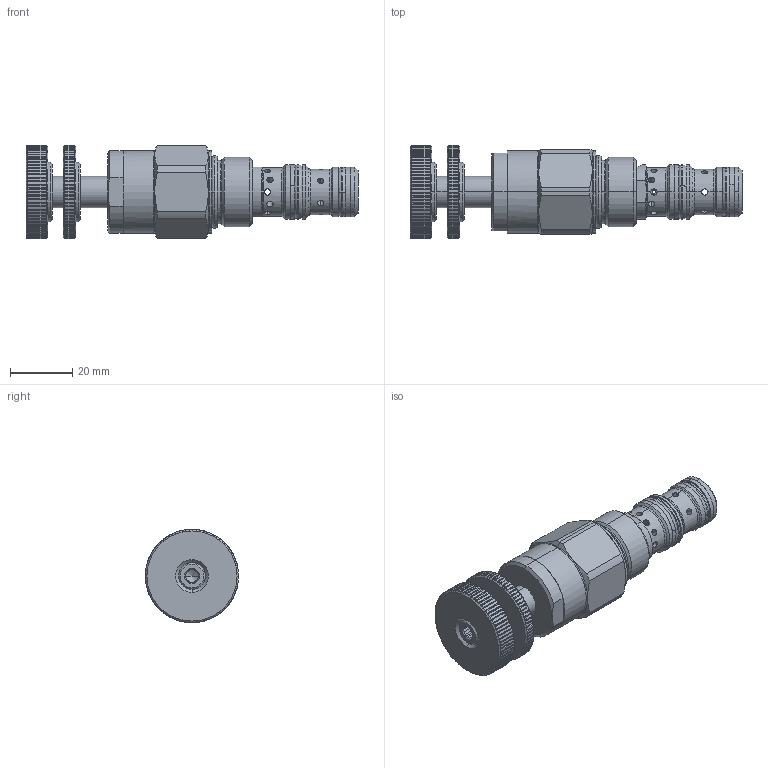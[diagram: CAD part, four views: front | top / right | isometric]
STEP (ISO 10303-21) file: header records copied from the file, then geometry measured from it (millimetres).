
FILE_DESCRIPTION (( 'STEP AP214' ), '1' );
FILE_NAME ('MDDPU10-80.STEP', '2017-09-05T08:59:41', ( '' ), ( '' ), 'SwSTEP 2.0', 'SolidWorks 2016', '' );
FILE_SCHEMA (( 'AUTOMOTIVE_DESIGN' ));
Length unit declared in the file: millimetre
Products named in the file (1): MDDPU10-80
Bounding box: 106.75 x 30 x 30 mm (x, y, z)
Volume: 40044.4 mm3; surface area: 14211.6 mm2
Topology: 6 solids, 7 shells, 835 faces, 2310 edges, 1473 vertices
Faces by surface type: plane 391, cylinder 296, cone 90, torus 34, bspline 24
Entity records: 37702 total; most frequent: CARTESIAN_POINT 8342, ORIENTED_EDGE 4588, DIRECTION 3798, EDGE_CURVE 2294, AXIS2_PLACEMENT_3D 1513, VERTEX_POINT 1473, EDGE_LOOP 881, UNCERTAINTY_MEASURE_WITH_UNIT 843
